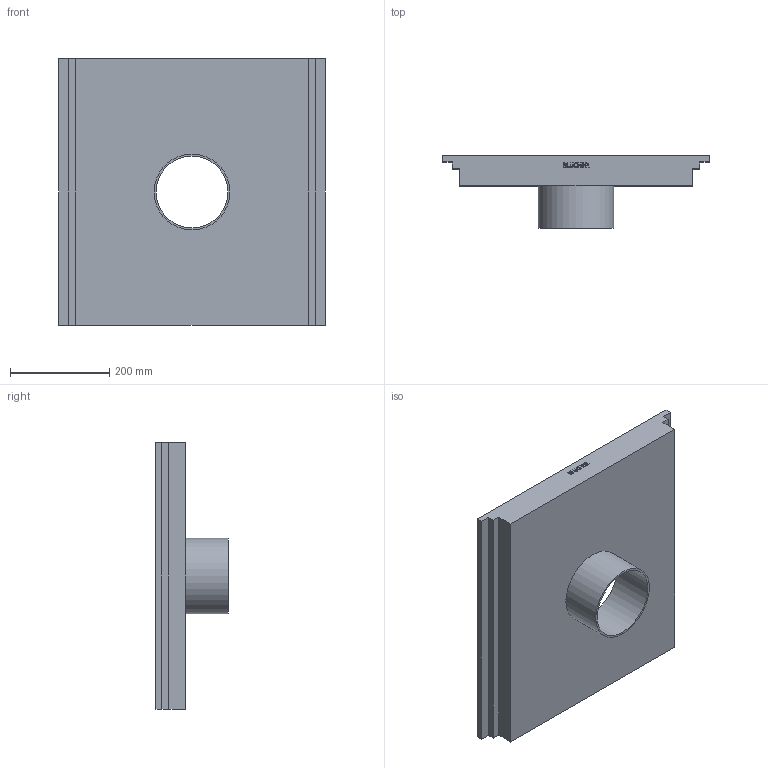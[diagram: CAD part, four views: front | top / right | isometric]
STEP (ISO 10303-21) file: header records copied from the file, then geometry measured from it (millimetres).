
FILE_DESCRIPTION((''),'2;1');
FILE_NAME('I:\WATTS\3D_CAD\3D_CAD_Models\Blucher_Drains\BKC_KitchenChannels\BKC-300\WebsiteFiles\3D\STEP\BKC-306-2.stp','2009-11-30T09:07:57',('menesek'),(''),'Autodesk Inventor 2010','Autodesk Inventor 2010','');
FILE_SCHEMA(('AUTOMOTIVE_DESIGN { 1 0 10303 214 1 1 1 1 }'));
Length unit declared in the file: inch
Products named in the file (1): BKC-306-2
Bounding box: 537 x 145 x 537 mm (x, y, z)
Volume: 2713167 mm3; surface area: 856525 mm2
Topology: 1 solids, 1 shells, 142 faces, 385 edges, 257 vertices
Faces by surface type: plane 95, bspline 45, cylinder 2
Full cylindrical faces by diameter (mm): 144.4 x1, 152.4 x1
Entity records: 4799 total; most frequent: CARTESIAN_POINT 1501, ORIENTED_EDGE 764, DIRECTION 492, EDGE_CURVE 382, VECTOR 288, LINE 288, VERTEX_POINT 256, EDGE_LOOP 158
